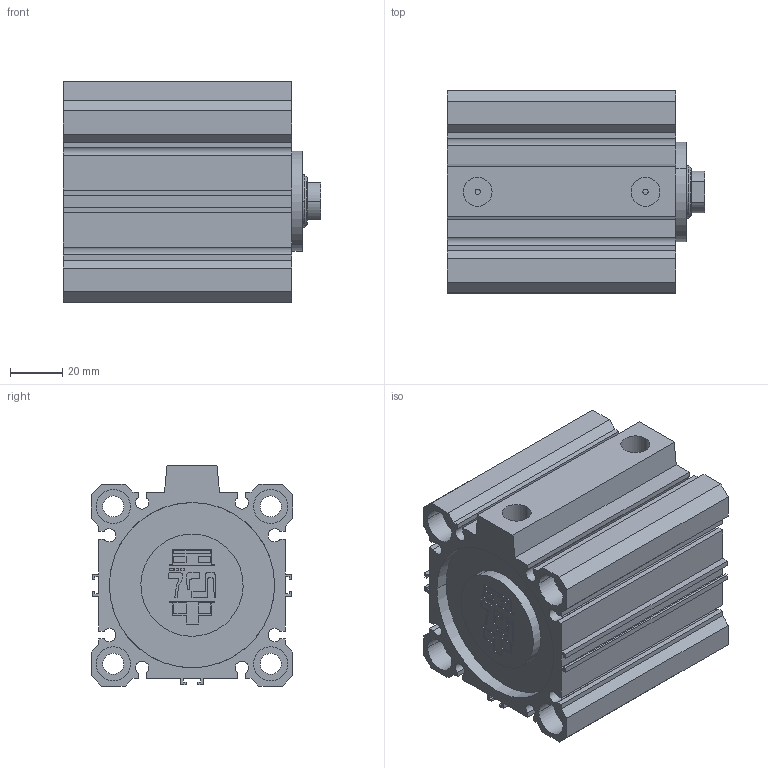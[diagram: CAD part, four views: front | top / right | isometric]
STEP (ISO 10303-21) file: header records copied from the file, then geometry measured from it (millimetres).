
FILE_DESCRIPTION(('CATIA V5 STEP Exchange'),'2;1');
FILE_NAME('D:\PDA\PDA-STP\PDA 63-20\PDA 63-20-45.stp','2016-02-03T05:40:13+00:00',('none'),('none'),'Version 5-6 Release 2012','CATIA V5 STEP AP203','none');
FILE_SCHEMA(('CONFIG_CONTROL_DESIGN'));
Length unit declared in the file: millimetre
Products named in the file (1): PDA 63-20-45-00
Assembly tree (2 placements, depth 2):
  PDA 63-20-45-00
    #58
    #7662
Bounding box: 98 x 77 x 84 mm (x, y, z)
Volume: 276622.1 mm3; surface area: 99018.8 mm2
Topology: 2 solids, 2 shells, 284 faces, 748 edges, 500 vertices
Faces by surface type: plane 200, cylinder 80, cone 2, torus 2
Entity records: 8182 total; most frequent: ORIENTED_EDGE 1496, CARTESIAN_POINT 1461, DIRECTION 1106, EDGE_CURVE 748, VECTOR 574, LINE 574, VERTEX_POINT 500, AXIS2_PLACEMENT_3D 351
